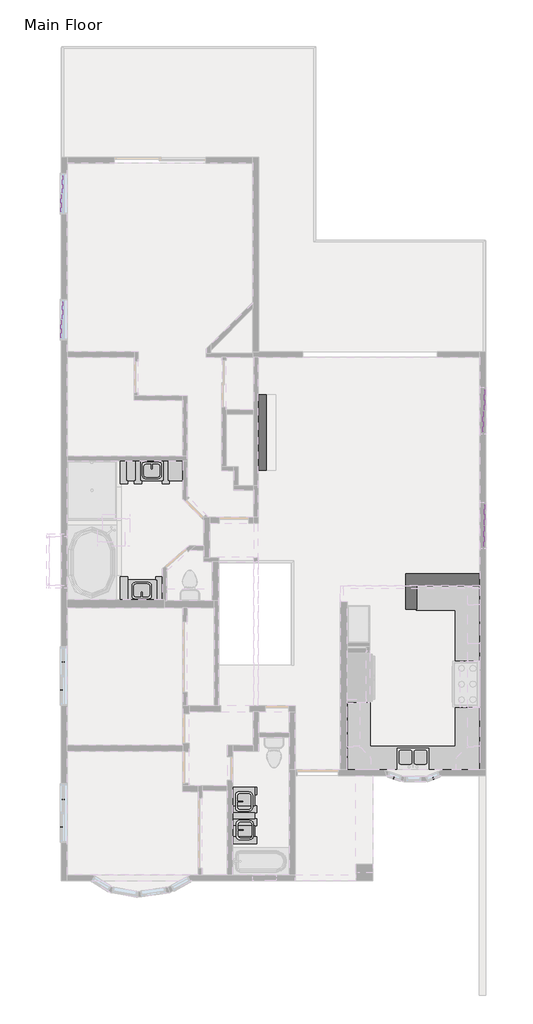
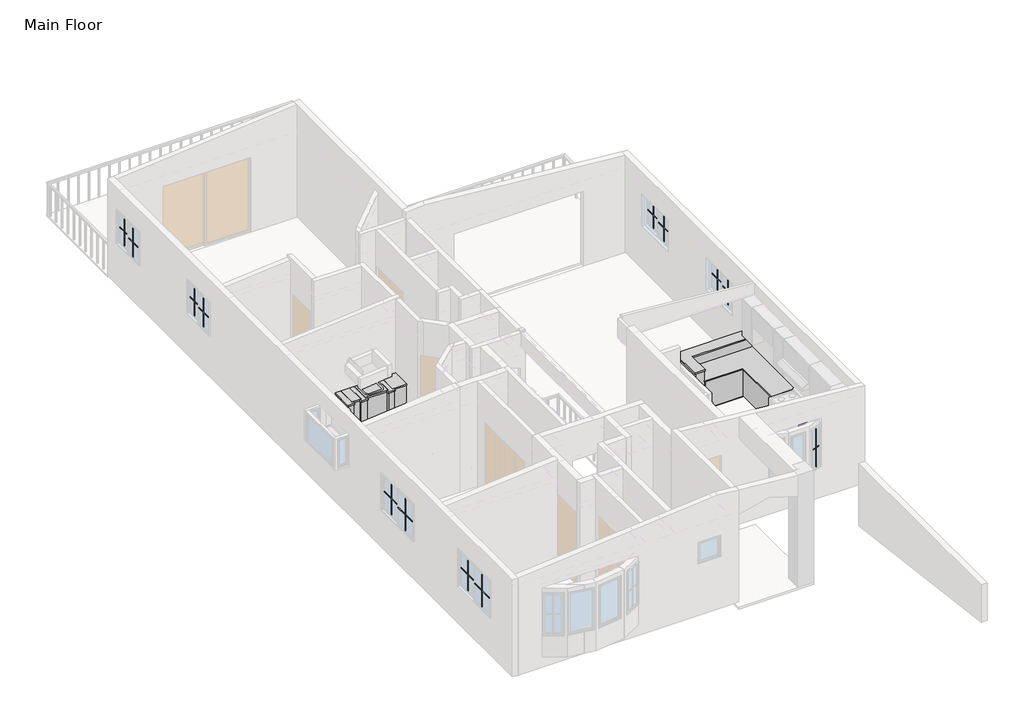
# One storey, part 5 of 5: 32 proxies.
"""IFC4 building model written with IfcOpenShell, lengths in millimetres."""

from ifc_helpers import new_model, si_unit, frame, origin, origin_with_axes, place, context, project, spatial, polyline, outline, extrude, faceted_brep, transform, mapped, element, save
from components import bar_81681fa0, countertop_u_shape_base_default_1_f55b23da, default_1_b07f35ee, fireplace_default_1_89c34899, muntin_pattern_2x2_muntin_pattern_2x2_0ac132d2, muntin_pattern_2x2_muntin_pattern_2x2_2203c52f, muntin_pattern_2x2_muntin_pattern_2x2_1c4d2e6b, muntin_pattern_2x2_muntin_pattern_2x2_7cdcbd1e

model = new_model("IFC4")

# Units and contexts
model_context = context("Model", 3, world=origin())
ifc_project = project(units=[si_unit("LENGTHUNIT", "METRE", prefix="MILLI")], contexts=[model_context])

# Site, building, storey
site = spatial("IfcSite", under=ifc_project)
building = spatial("IfcBuilding", under=site)
storey = spatial("IfcBuildingStorey", under=building, Name="Main Floor", Elevation=0.0)

# Proxies
placement = place(None, origin())
bar_shape = bar_81681fa0(model_context)
element("IfcBuildingElementProxy", 1, Name="Countertop- L  Shape base : BAR", ObjectType="Countertop- L  Shape base : BAR", at=placement, inside=storey, context=model_context, shape_type="MappedRepresentation", body=[
    mapped(bar_shape, transform((3161.0195083, -456.3938544, 0.0), x_axis=(0.0, -1.0, 0.0), y_axis=(1.0, 0.0, 0.0), z_axis=(0.0, 0.0, 1.0))),
])
element("IfcBuildingElementProxy", 2, Name="Countertop- Rectangle shape base : Default 1", ObjectType="Countertop- Rectangle shape base : Default 1", at=placement, inside=storey, context=model_context, shape_type="SolidModel", body=[
    extrude(outline(polyline([(-4229.9755931, -1256.5731663), (-4178.3755931, -1256.5731663), (-4178.3755931, -1631.6438544), (-4229.9755931, -1631.6438544), (-4229.9755931, -1256.5731663)])), origin_with_axes(), (0.0, 0.0, 1.0), 101.6),
    faceted_brep([(-4128.3755931, -1154.9731663, 101.6), (-4128.3755931, -1225.2438544, 101.6), (-4128.3755931, -1733.2438544, 101.6), (-4279.9755931, -1733.2438544, 101.6), (-4279.9755931, -1154.9731663, 101.6), (-4128.3755931, -1154.9731663, 876.3), (-4279.9755931, -1154.9731663, 876.3), (-4279.9755931, -1733.2438544, 876.3), (-4128.3755931, -1733.2438544, 876.3), (-4128.3755931, -1225.2438544, 876.3)], [[[0, 1, 2, 3, 4]], [[5, 6, 7, 8, 9]], [[6, 5, 0, 4]], [[7, 6, 4, 3]], [[8, 7, 3, 2]], [[5, 9, 8, 2, 1, 0]]]),
    faceted_brep([(-4299.0255931, -1752.2938544, 914.4), (-4109.3255931, -1752.2938544, 914.4), (-4109.3255931, -1206.1938544, 914.4), (-4109.3255931, -1135.9231663, 914.4), (-4299.0255931, -1135.9231663, 914.4), (-4299.0255931, -1752.2938544, 876.3), (-4299.0255931, -1135.9231663, 876.3), (-4109.3255931, -1135.9231663, 876.3), (-4109.3255931, -1206.1938544, 876.3), (-4109.3255931, -1752.2938544, 876.3)], [[[0, 1, 2, 3, 4]], [[5, 6, 7, 8, 9]], [[1, 0, 5, 9]], [[3, 2, 1, 9, 8, 7]], [[4, 3, 7, 6]], [[0, 4, 6, 5]]]),
])
element("IfcBuildingElementProxy", 3, Name="Countertop- Rectangle shape base : Default 1", ObjectType="Countertop- Rectangle shape base : Default 1", at=placement, inside=storey, context=model_context, shape_type="SolidModel", body=[
    extrude(outline(polyline([(-3309.2255931, -1256.5731663), (-3257.6255931, -1256.5731663), (-3257.6255931, -1631.6438544), (-3309.2255931, -1631.6438544), (-3309.2255931, -1256.5731663)])), origin_with_axes(), (0.0, 0.0, 1.0), 101.6),
    faceted_brep([(-3207.6255931, -1154.9731663, 101.6), (-3207.6255931, -1733.2438544, 101.6), (-3359.2255931, -1733.2438544, 101.6), (-3359.2255931, -1225.2438544, 101.6), (-3359.2255931, -1154.9731663, 101.6), (-3207.6255931, -1154.9731663, 876.3), (-3359.2255931, -1154.9731663, 876.3), (-3359.2255931, -1225.2438544, 876.3), (-3359.2255931, -1733.2438544, 876.3), (-3207.6255931, -1733.2438544, 876.3)], [[[0, 1, 2, 3, 4]], [[5, 6, 7, 8, 9]], [[6, 5, 0, 4]], [[8, 7, 6, 4, 3, 2]], [[9, 8, 2, 1]], [[5, 9, 1, 0]]]),
    extrude(outline(polyline([(-3378.2755931, -1135.9231663), (-3188.5755931, -1135.9231663), (-3188.5755931, -1752.2938544), (-3340.1755931, -1752.2938544), (-3340.1755931, -1206.1938544), (-3378.2755931, -1206.1938544), (-3378.2755931, -1135.9231663)])), frame((0.0, 0.0, 876.3), z_axis=(0.0, 0.0, 1.0), x_axis=(1.0, 0.0, 0.0)), (0.0, 0.0, 1.0), 38.1),
])
element("IfcBuildingElementProxy", 4, Name="Countertop- Rectangle shape base : Default 1", ObjectType="Countertop- Rectangle shape base : Default 1", at=placement, inside=storey, context=model_context, shape_type="SolidModel", body=[
    faceted_brep([(-3340.1755931, -1752.2938544, 914.4), (-3340.1755931, -1206.1938544, 914.4), (-3378.2755931, -1206.1938544, 914.4), (-4109.3255931, -1206.1938544, 914.4), (-4109.3255931, -1752.2938544, 914.4), (-3340.1755931, -1206.1938544, 876.3), (-3340.1755931, -1752.2938544, 876.3), (-4109.3255931, -1752.2938544, 876.3), (-4109.3255931, -1206.1938544, 876.3), (-3378.2755931, -1206.1938544, 876.3)], [[[0, 1, 2, 3, 4]], [[5, 6, 7, 8, 9]], [[6, 0, 4, 7]], [[1, 0, 6, 5]], [[1, 5, 9, 8, 3, 2]], [[4, 3, 8, 7]]]),
    extrude(outline(polyline([(-3460.8255931, -1326.8438544), (-3460.8255931, -1631.6438544), (-4026.7755931, -1631.6438544), (-4026.7755931, -1326.8438544), (-3460.8255931, -1326.8438544)])), origin_with_axes(), (0.0, 0.0, 1.0), 101.6),
    extrude(outline(polyline([(-3359.2255931, -1225.2438544), (-3359.2255931, -1733.2438544), (-4128.3755931, -1733.2438544), (-4128.3755931, -1225.2438544), (-3359.2255931, -1225.2438544)])), frame((0.0, 0.0, 101.6), z_axis=(0.0, 0.0, 1.0), x_axis=(1.0, 0.0, 0.0)), (0.0, 0.0, 1.0), 774.7),
])
element("IfcBuildingElementProxy", 5, Name="Countertop- Rectangle shape base : Default 1", ObjectType="Countertop- Rectangle shape base : Default 1", at=placement, inside=storey, context=model_context, shape_type="SolidModel", body=[
    extrude(outline(polyline([(-4299.0255931, 1298.6708016), (-4299.0255931, 1915.0414897), (-4109.3255931, 1915.0414897), (-4109.3255931, 1911.8664897), (-4147.4255931, 1911.8664897), (-4147.4255931, 1365.7664897), (-4109.3255931, 1365.7664897), (-4109.3255931, 1298.6708016), (-4299.0255931, 1298.6708016)])), frame((0.0, 0.0, 876.3), z_axis=(0.0, 0.0, 1.0), x_axis=(1.0, 0.0, 0.0)), (0.0, 0.0, 1.0), 38.1),
    extrude(outline(polyline([(-4229.9755931, 1794.3914897), (-4178.3755931, 1794.3914897), (-4178.3755931, 1419.3208016), (-4229.9755931, 1419.3208016), (-4229.9755931, 1794.3914897)])), origin_with_axes(), (0.0, 0.0, 1.0), 101.6),
    faceted_brep([(-4128.3755931, 1895.9914897, 101.6), (-4128.3755931, 1892.8164897, 101.6), (-4128.3755931, 1384.8164897, 101.6), (-4128.3755931, 1317.7208016, 101.6), (-4279.9755931, 1317.7208016, 101.6), (-4279.9755931, 1895.9914897, 101.6), (-4128.3755931, 1895.9914897, 876.3), (-4279.9755931, 1895.9914897, 876.3), (-4279.9755931, 1317.7208016, 876.3), (-4128.3755931, 1317.7208016, 876.3), (-4128.3755931, 1384.8164897, 876.3), (-4128.3755931, 1892.8164897, 876.3)], [[[0, 1, 2, 3, 4, 5]], [[6, 7, 8, 9, 10, 11]], [[7, 6, 0, 5]], [[8, 7, 5, 4]], [[9, 8, 4, 3]], [[6, 11, 10, 9, 3, 2, 1, 0]]]),
])
element("IfcBuildingElementProxy", 6, Name="Countertop- Rectangle shape base : Default 1", ObjectType="Countertop- Rectangle shape base : Default 1", at=placement, inside=storey, context=model_context, shape_type="SolidModel", body=[
    extrude(outline(polyline([(-3868.0255931, 1794.3914897), (-3816.4255931, 1794.3914897), (-3816.4255931, 1419.3208016), (-3868.0255931, 1419.3208016), (-3868.0255931, 1794.3914897)])), origin_with_axes(), (0.0, 0.0, 1.0), 101.6),
    faceted_brep([(-3766.4255931, 1895.9914897, 101.6), (-3766.4255931, 1892.8164897, 101.6), (-3766.4255931, 1384.8164897, 101.6), (-3766.4255931, 1317.7208016, 101.6), (-3918.0255931, 1317.7208016, 101.6), (-3918.0255931, 1384.8164897, 101.6), (-3918.0255931, 1892.8164897, 101.6), (-3918.0255931, 1895.9914897, 101.6), (-3766.4255931, 1895.9914897, 876.3), (-3918.0255931, 1895.9914897, 876.3), (-3918.0255931, 1892.8164897, 876.3), (-3918.0255931, 1384.8164897, 876.3), (-3918.0255931, 1317.7208016, 876.3), (-3766.4255931, 1317.7208016, 876.3), (-3766.4255931, 1384.8164897, 876.3), (-3766.4255931, 1892.8164897, 876.3)], [[[0, 1, 2, 3, 4, 5, 6, 7]], [[8, 9, 10, 11, 12, 13, 14, 15]], [[9, 8, 0, 7]], [[12, 11, 10, 9, 7, 6, 5, 4]], [[13, 12, 4, 3]], [[8, 15, 14, 13, 3, 2, 1, 0]]]),
    extrude(outline(polyline([(-3937.0755931, 1915.0414897), (-3747.3755931, 1915.0414897), (-3747.3755931, 1911.8664897), (-3785.4755931, 1911.8664897), (-3785.4755931, 1365.7664897), (-3747.3755931, 1365.7664897), (-3747.3755931, 1298.6708016), (-3937.0755931, 1298.6708016), (-3937.0755931, 1365.7664897), (-3898.9755931, 1365.7664897), (-3898.9755931, 1911.8664897), (-3937.0755931, 1911.8664897), (-3937.0755931, 1915.0414897)])), frame((0.0, 0.0, 876.3), z_axis=(0.0, 0.0, 1.0), x_axis=(1.0, 0.0, 0.0)), (0.0, 0.0, 1.0), 38.1),
])
element("IfcBuildingElementProxy", 7, Name="Countertop- Rectangle shape base : Default 1", ObjectType="Countertop- Rectangle shape base : Default 1", at=placement, inside=storey, context=model_context, shape_type="SolidModel", body=[
    extrude(outline(polyline([(-3143.2255931, 1788.0414897), (-3091.6255931, 1788.0414897), (-3091.6255931, 1412.9708016), (-3143.2255931, 1412.9708016), (-3143.2255931, 1788.0414897)])), origin_with_axes(), (0.0, 0.0, 1.0), 101.6),
    faceted_brep([(-3041.6255931, 1889.6414897, 101.6), (-3041.6255931, 1384.8164897, 101.6), (-3041.6255931, 1311.3708016, 101.6), (-3193.2255931, 1311.3708016, 101.6), (-3193.2255931, 1384.8164897, 101.6), (-3193.2255931, 1889.6414897, 101.6), (-3041.6255931, 1889.6414897, 876.3), (-3193.2255931, 1889.6414897, 876.3), (-3193.2255931, 1384.8164897, 876.3), (-3193.2255931, 1311.3708016, 876.3), (-3041.6255931, 1311.3708016, 876.3), (-3041.6255931, 1384.8164897, 876.3)], [[[0, 1, 2, 3, 4, 5]], [[6, 7, 8, 9, 10, 11]], [[7, 6, 0, 5]], [[9, 8, 7, 5, 4, 3]], [[10, 9, 3, 2]], [[6, 11, 10, 2, 1, 0]]]),
    extrude(outline(polyline([(-3022.5755931, 1292.3208016), (-3212.2755931, 1292.3208016), (-3212.2755931, 1365.7664897), (-3174.1755931, 1365.7664897), (-3174.1755931, 1908.6914897), (-3060.6755931, 1908.6914897), (-3060.6755931, 1365.7664897), (-3022.5755931, 1365.7664897), (-3022.5755931, 1292.3208016)])), frame((0.0, 0.0, 876.3), z_axis=(0.0, 0.0, 1.0), x_axis=(1.0, 0.0, 0.0)), (0.0, 0.0, 1.0), 38.1),
])
element("IfcBuildingElementProxy", 8, Name="Countertop- Rectangle shape base : Default 1", ObjectType="Countertop- Rectangle shape base : Default 1", at=placement, inside=storey, context=model_context, shape_type="SolidModel", body=[
    faceted_brep([(-4147.4255931, 1365.7664897, 914.4), (-4109.3255931, 1365.7664897, 914.4), (-3937.0755931, 1365.7664897, 914.4), (-3898.9755931, 1365.7664897, 914.4), (-3898.9755931, 1911.8664897, 914.4), (-3937.0755931, 1911.8664897, 914.4), (-4109.3255931, 1911.8664897, 914.4), (-4147.4255931, 1911.8664897, 914.4), (-4147.4255931, 1365.7664897, 876.3), (-4147.4255931, 1911.8664897, 876.3), (-4109.3255931, 1911.8664897, 876.3), (-3937.0755931, 1911.8664897, 876.3), (-3898.9755931, 1911.8664897, 876.3), (-3898.9755931, 1365.7664897, 876.3), (-3937.0755931, 1365.7664897, 876.3), (-4109.3255931, 1365.7664897, 876.3)], [[[0, 1, 2, 3, 4, 5, 6, 7]], [[8, 9, 10, 11, 12, 13, 14, 15]], [[3, 2, 1, 0, 8, 15, 14, 13]], [[4, 3, 13, 12]], [[7, 6, 5, 4, 12, 11, 10, 9]], [[0, 7, 9, 8]]]),
    extrude(outline(polyline([(-4019.6255931, 1791.2164897), (-4019.6255931, 1486.4164897), (-4026.7755931, 1486.4164897), (-4026.7755931, 1791.2164897), (-4019.6255931, 1791.2164897)])), origin_with_axes(), (0.0, 0.0, 1.0), 101.6),
    extrude(outline(polyline([(-3918.0255931, 1892.8164897), (-3918.0255931, 1384.8164897), (-4128.3755931, 1384.8164897), (-4128.3755931, 1892.8164897), (-3918.0255931, 1892.8164897)])), frame((0.0, 0.0, 101.6), z_axis=(0.0, 0.0, 1.0), x_axis=(1.0, 0.0, 0.0)), (0.0, 0.0, 1.0), 774.7),
])
element("IfcBuildingElementProxy", 9, Name="Countertop- Rectangle shape base : Default 1", ObjectType="Countertop- Rectangle shape base : Default 1", at=placement, inside=storey, context=model_context, shape_type="SolidModel", body=[
    faceted_brep([(-3785.4755931, 1365.7664897, 914.4), (-3747.3755931, 1365.7664897, 914.4), (-3212.2755931, 1365.7664897, 914.4), (-3174.1755931, 1365.7664897, 914.4), (-3174.1755931, 1908.6914897, 914.4), (-3174.1755931, 1911.8664897, 914.4), (-3747.3755931, 1911.8664897, 914.4), (-3785.4755931, 1911.8664897, 914.4), (-3785.4755931, 1365.7664897, 876.3), (-3785.4755931, 1911.8664897, 876.3), (-3747.3755931, 1911.8664897, 876.3), (-3174.1755931, 1911.8664897, 876.3), (-3174.1755931, 1908.6914897, 876.3), (-3174.1755931, 1365.7664897, 876.3), (-3212.2755931, 1365.7664897, 876.3), (-3747.3755931, 1365.7664897, 876.3)], [[[0, 1, 2, 3, 4, 5, 6, 7]], [[8, 9, 10, 11, 12, 13, 14, 15]], [[3, 2, 1, 0, 8, 15, 14, 13]], [[5, 4, 3, 13, 12, 11]], [[7, 6, 5, 11, 10, 9]], [[0, 7, 9, 8]]]),
    extrude(outline(polyline([(-3294.8255931, 1791.2164897), (-3294.8255931, 1486.4164897), (-3664.8255931, 1486.4164897), (-3664.8255931, 1791.2164897), (-3294.8255931, 1791.2164897)])), origin_with_axes(), (0.0, 0.0, 1.0), 101.6),
    faceted_brep([(-3193.2255931, 1892.8164897, 101.6), (-3193.2255931, 1889.6414897, 101.6), (-3193.2255931, 1384.8164897, 101.6), (-3766.4255931, 1384.8164897, 101.6), (-3766.4255931, 1892.8164897, 101.6), (-3193.2255931, 1892.8164897, 876.3), (-3766.4255931, 1892.8164897, 876.3), (-3766.4255931, 1384.8164897, 876.3), (-3193.2255931, 1384.8164897, 876.3), (-3193.2255931, 1889.6414897, 876.3)], [[[0, 1, 2, 3, 4]], [[5, 6, 7, 8, 9]], [[6, 5, 0, 4]], [[7, 6, 4, 3]], [[8, 7, 3, 2]], [[5, 9, 8, 2, 1, 0]]]),
])
element("IfcBuildingElementProxy", 10, Name="Countertop- Rectangle shape base : Default 1", ObjectType="Countertop- Rectangle shape base : Default 1", at=placement, inside=storey, context=model_context, shape_type="SolidModel", body=[
    extrude(outline(polyline([(-2769.4755931, 1791.2164897), (-2769.4755931, 1486.4164897), (-2940.0255931, 1486.4164897), (-2940.0255931, 1791.2164897), (-2769.4755931, 1791.2164897)])), origin_with_axes(), (0.0, 0.0, 1.0), 101.6),
    faceted_brep([(-2667.8755931, 1892.8164897, 101.6), (-2667.8755931, 1384.8164897, 101.6), (-3041.6255931, 1384.8164897, 101.6), (-3041.6255931, 1889.6414897, 101.6), (-3041.6255931, 1892.8164897, 101.6), (-2667.8755931, 1892.8164897, 876.3), (-3041.6255931, 1892.8164897, 876.3), (-3041.6255931, 1889.6414897, 876.3), (-3041.6255931, 1384.8164897, 876.3), (-2667.8755931, 1384.8164897, 876.3)], [[[0, 1, 2, 3, 4]], [[5, 6, 7, 8, 9]], [[6, 5, 0, 4]], [[8, 7, 6, 4, 3, 2]], [[9, 8, 2, 1]], [[5, 9, 1, 0]]]),
    faceted_brep([(-3060.6755931, 1365.7664897, 914.4), (-3022.5755931, 1365.7664897, 914.4), (-2648.8255931, 1365.7664897, 914.4), (-2648.8255931, 1911.8664897, 914.4), (-3060.6755931, 1911.8664897, 914.4), (-3060.6755931, 1908.6914897, 914.4), (-3060.6755931, 1365.7664897, 876.3), (-3060.6755931, 1908.6914897, 876.3), (-3060.6755931, 1911.8664897, 876.3), (-2648.8255931, 1911.8664897, 876.3), (-2648.8255931, 1365.7664897, 876.3), (-3022.5755931, 1365.7664897, 876.3)], [[[0, 1, 2, 3, 4, 5]], [[6, 7, 8, 9, 10, 11]], [[2, 1, 0, 6, 11, 10]], [[3, 2, 10, 9]], [[4, 3, 9, 8]], [[0, 5, 4, 8, 7, 6]]]),
])
element("IfcBuildingElementProxy", 11, Name="Countertop- Rectangle shape base : Default 1", ObjectType="Countertop- Rectangle shape base : Default 1", at=placement, inside=storey, context=model_context, shape_type="SolidModel", body=[
    faceted_brep([(-1391.6255931, -7899.8938544, 914.4), (-794.6255931, -7899.8938544, 914.4), (-794.6255931, -7619.6938544, 914.4), (-1391.6255931, -7619.6938544, 914.4), (-794.6255931, -7899.8938544, 876.3), (-794.6255931, -7619.6938544, 876.3), (-1391.6255931, -7899.8938544, 876.3), (-1391.6255931, -7619.6938544, 876.3)], [[[0, 1, 2, 3]], [[1, 4, 5, 2]], [[1, 0, 6, 4]], [[3, 2, 5, 7]], [[4, 6, 7, 5]], [[6, 0, 3, 7]]]),
    faceted_brep([(-1391.6255931, -6616.3938544, 876.3), (-794.6255931, -6616.3938544, 876.3), (-794.6255931, -6806.0938544, 876.3), (-794.6255931, -7093.4438544, 876.3), (-1391.6255931, -7093.4438544, 876.3), (-1391.6255931, -6616.3938544, 914.4), (-794.6255931, -6616.3938544, 914.4), (-1391.6255931, -7093.4438544, 914.4), (-794.6255931, -7093.4438544, 914.4), (-794.6255931, -6806.0938544, 914.4)], [[[0, 1, 2, 3, 4]], [[5, 6, 1, 0]], [[5, 0, 4, 7]], [[4, 3, 8, 7]], [[6, 5, 7, 8, 9]], [[1, 6, 9, 8, 3, 2]]]),
    faceted_brep([(-794.6255931, -7429.9938544, 914.4), (-1391.6255931, -7429.9938544, 914.4), (-1391.6255931, -7429.9938544, 876.3), (-794.6255931, -7429.9938544, 876.3), (-794.6255931, -7283.1438544, 914.4), (-1391.6255931, -7283.1438544, 914.4), (-794.6255931, -7283.1438544, 876.3), (-1391.6255931, -7283.1438544, 876.3)], [[[0, 1, 2, 3]], [[1, 0, 4, 5]], [[0, 3, 6, 4]], [[6, 7, 5, 4]], [[3, 2, 7, 6]], [[2, 1, 5, 7]]]),
    extrude(outline(polyline([(-1270.9755931, -6737.0438544), (-915.2755931, -6737.0438544), (-915.2755931, -7162.4938544), (-1270.9755931, -7162.4938544), (-1270.9755931, -6737.0438544)])), origin_with_axes(), (0.0, 0.0, 1.0), 101.6),
    extrude(outline(polyline([(-915.2755931, -7968.9438544), (-1270.9755931, -7968.9438544), (-1270.9755931, -7550.6438544), (-915.2755931, -7550.6438544), (-915.2755931, -7968.9438544)])), origin_with_axes(), (0.0, 0.0, 1.0), 101.6),
    extrude(outline(polyline([(-915.2755931, -7499.0438544), (-1270.9755931, -7499.0438544), (-1270.9755931, -7214.0938544), (-915.2755931, -7214.0938544), (-915.2755931, -7499.0438544)])), origin_with_axes(), (0.0, 0.0, 1.0), 101.6),
    faceted_brep([(-813.6755931, -7918.9438544, 101.6), (-1372.5755931, -7918.9438544, 101.6), (-1372.5755931, -7600.6438544, 101.6), (-813.6755931, -7600.6438544, 101.6), (-813.6755931, -7918.9438544, 876.3), (-813.6755931, -7600.6438544, 876.3), (-1372.5755931, -7918.9438544, 876.3), (-1372.5755931, -7600.6438544, 876.3)], [[[0, 1, 2, 3]], [[4, 0, 3, 5]], [[1, 0, 4, 6]], [[3, 2, 7, 5]], [[6, 4, 5, 7]], [[1, 6, 7, 2]]]),
    faceted_brep([(-813.6755931, -6635.4438544, 876.3), (-1372.5755931, -6635.4438544, 876.3), (-1372.5755931, -7112.4938544, 876.3), (-813.6755931, -7112.4938544, 876.3), (-813.6755931, -6787.0438544, 876.3), (-1372.5755931, -6635.4438544, 101.6), (-1372.5755931, -7112.4938544, 101.6), (-813.6755931, -6635.4438544, 101.6), (-813.6755931, -7112.4938544, 101.6), (-813.6755931, -6787.0438544, 101.6)], [[[0, 1, 2, 3, 4]], [[1, 5, 6, 2]], [[7, 5, 1, 0]], [[3, 2, 6, 8]], [[5, 7, 9, 8, 6]], [[7, 0, 4, 3, 8, 9]]]),
    faceted_brep([(-1372.5755931, -7449.0438544, 101.6), (-813.6755931, -7449.0438544, 101.6), (-813.6755931, -7449.0438544, 876.3), (-1372.5755931, -7449.0438544, 876.3), (-1372.5755931, -7264.0938544, 101.6), (-813.6755931, -7264.0938544, 101.6), (-813.6755931, -7264.0938544, 876.3), (-1372.5755931, -7264.0938544, 876.3)], [[[0, 1, 2, 3]], [[1, 0, 4, 5]], [[2, 1, 5, 6]], [[7, 6, 5, 4]], [[3, 2, 6, 7]], [[0, 3, 7, 4]]]),
])
element("IfcBuildingElementProxy", 12, Name="Countertop- Rectangle shape base : Default 1", ObjectType="Countertop- Rectangle shape base : Default 1", at=placement, inside=storey, context=model_context, shape_type="SolidModel", body=[
    faceted_brep([(-1270.8755931, -6737.0438544, 101.6), (-915.2755931, -6737.0438544, 101.6), (-864.4755931, -6737.0438544, 101.6), (-864.4755931, -6685.4438544, 101.6), (-1270.8755931, -6685.4438544, 101.6), (-1270.8755931, -6737.0438544, 0.0), (-1270.8755931, -6685.4438544, 0.0), (-864.4755931, -6685.4438544, 0.0), (-864.4755931, -6737.0438544, 0.0), (-915.2755931, -6737.0438544, 0.0)], [[[0, 1, 2, 3, 4]], [[5, 6, 7, 8, 9]], [[0, 4, 6, 5]], [[4, 3, 7, 6]], [[3, 2, 8, 7]], [[2, 1, 0, 5, 9, 8]]]),
    extrude(outline(polyline([(-762.8755931, -6635.4438544), (-762.8755931, -6787.0438544), (-813.6755931, -6787.0438544), (-813.6755931, -6635.4438544), (-762.8755931, -6635.4438544)])), frame((0.0, 0.0, 101.6), z_axis=(0.0, 0.0, 1.0), x_axis=(1.0, 0.0, 0.0)), (0.0, 0.0, 1.0), 774.7),
    extrude(outline(polyline([(-743.8255931, -6616.3938544), (-743.8255931, -6806.0938544), (-794.6255931, -6806.0938544), (-794.6255931, -6616.3938544), (-743.8255931, -6616.3938544)])), frame((0.0, 0.0, 876.3), z_axis=(0.0, 0.0, 1.0), x_axis=(1.0, 0.0, 0.0)), (0.0, 0.0, 1.0), 38.1),
])
element("IfcBuildingElementProxy", 13, Name="Countertop- Rectangle shape base : Default 1", ObjectType="Countertop- Rectangle shape base : Default 1", at=placement, inside=storey, context=model_context, shape_type="Brep", body=[
    faceted_brep([(-1270.8755931, -7214.0938544, 101.6), (-915.2755931, -7214.0938544, 101.6), (-864.4755931, -7214.0938544, 101.6), (-864.4755931, -7162.4938544, 101.6), (-915.2755931, -7162.4938544, 101.6), (-1270.8755931, -7162.4938544, 101.6), (-1270.8755931, -7214.0938544, 0.0), (-1270.8755931, -7162.4938544, 0.0), (-915.2755931, -7162.4938544, 0.0), (-864.4755931, -7162.4938544, 0.0), (-864.4755931, -7214.0938544, 0.0), (-915.2755931, -7214.0938544, 0.0)], [[[0, 1, 2, 3, 4, 5]], [[6, 7, 8, 9, 10, 11]], [[0, 5, 7, 6]], [[5, 4, 3, 9, 8, 7]], [[3, 2, 10, 9]], [[2, 1, 0, 6, 11, 10]]]),
    faceted_brep([(-1372.4755931, -7112.4938544, 101.6), (-813.6755931, -7112.4938544, 101.6), (-762.8755931, -7112.4938544, 101.6), (-762.8755931, -7264.0938544, 101.6), (-813.6755931, -7264.0938544, 101.6), (-1372.4755931, -7264.0938544, 101.6), (-1372.4755931, -7112.4938544, 876.3), (-1372.4755931, -7264.0938544, 876.3), (-813.6755931, -7264.0938544, 876.3), (-762.8755931, -7264.0938544, 876.3), (-762.8755931, -7112.4938544, 876.3), (-813.6755931, -7112.4938544, 876.3)], [[[0, 1, 2, 3, 4, 5]], [[6, 7, 8, 9, 10, 11]], [[7, 6, 0, 5]], [[9, 8, 7, 5, 4, 3]], [[10, 9, 3, 2]], [[6, 11, 10, 2, 1, 0]]]),
    faceted_brep([(-743.8255931, -7283.1438544, 914.4), (-743.8255931, -7093.4438544, 914.4), (-794.6255931, -7093.4438544, 914.4), (-1391.5255931, -7093.4438544, 914.4), (-1391.5255931, -7283.1438544, 914.4), (-794.6255931, -7283.1438544, 914.4), (-743.8255931, -7283.1438544, 876.3), (-794.6255931, -7283.1438544, 876.3), (-1391.5255931, -7283.1438544, 876.3), (-1391.5255931, -7093.4438544, 876.3), (-794.6255931, -7093.4438544, 876.3), (-743.8255931, -7093.4438544, 876.3)], [[[0, 1, 2, 3, 4, 5]], [[6, 7, 8, 9, 10, 11]], [[1, 0, 6, 11]], [[3, 2, 1, 11, 10, 9]], [[4, 3, 9, 8]], [[0, 5, 4, 8, 7, 6]]]),
])
element("IfcBuildingElementProxy", 14, Name="Countertop- Rectangle shape base : Default 1", ObjectType="Countertop- Rectangle shape base : Default 1", at=placement, inside=storey, context=model_context, shape_type="Brep", body=[
    faceted_brep([(-743.8255931, -7619.6938544, 914.4), (-743.8255931, -7429.9938544, 914.4), (-794.6255931, -7429.9938544, 914.4), (-1391.5255931, -7429.9938544, 914.4), (-1391.5255931, -7619.6938544, 914.4), (-794.6255931, -7619.6938544, 914.4), (-743.8255931, -7619.6938544, 876.3), (-794.6255931, -7619.6938544, 876.3), (-1391.5255931, -7619.6938544, 876.3), (-1391.5255931, -7429.9938544, 876.3), (-794.6255931, -7429.9938544, 876.3), (-743.8255931, -7429.9938544, 876.3)], [[[0, 1, 2, 3, 4, 5]], [[6, 7, 8, 9, 10, 11]], [[1, 0, 6, 11]], [[3, 2, 1, 11, 10, 9]], [[4, 3, 9, 8]], [[0, 5, 4, 8, 7, 6]]]),
    faceted_brep([(-1270.8755931, -7550.6438544, 101.6), (-915.2755931, -7550.6438544, 101.6), (-864.4755931, -7550.6438544, 101.6), (-864.4755931, -7499.0438544, 101.6), (-915.2755931, -7499.0438544, 101.6), (-1270.8755931, -7499.0438544, 101.6), (-1270.8755931, -7550.6438544, 0.0), (-1270.8755931, -7499.0438544, 0.0), (-915.2755931, -7499.0438544, 0.0), (-864.4755931, -7499.0438544, 0.0), (-864.4755931, -7550.6438544, 0.0), (-915.2755931, -7550.6438544, 0.0)], [[[0, 1, 2, 3, 4, 5]], [[6, 7, 8, 9, 10, 11]], [[0, 5, 7, 6]], [[5, 4, 3, 9, 8, 7]], [[3, 2, 10, 9]], [[2, 1, 0, 6, 11, 10]]]),
    faceted_brep([(-1372.4755931, -7449.0438544, 101.6), (-813.6755931, -7449.0438544, 101.6), (-762.8755931, -7449.0438544, 101.6), (-762.8755931, -7600.6438544, 101.6), (-813.6755931, -7600.6438544, 101.6), (-1372.4755931, -7600.6438544, 101.6), (-1372.4755931, -7449.0438544, 876.3), (-1372.4755931, -7600.6438544, 876.3), (-813.6755931, -7600.6438544, 876.3), (-762.8755931, -7600.6438544, 876.3), (-762.8755931, -7449.0438544, 876.3), (-813.6755931, -7449.0438544, 876.3)], [[[0, 1, 2, 3, 4, 5]], [[6, 7, 8, 9, 10, 11]], [[7, 6, 0, 5]], [[9, 8, 7, 5, 4, 3]], [[10, 9, 3, 2]], [[6, 11, 10, 2, 1, 0]]]),
])
element("IfcBuildingElementProxy", 15, Name="Countertop- Rectangle shape base : Default 1", ObjectType="Countertop- Rectangle shape base : Default 1", at=placement, inside=storey, context=model_context, shape_type="Brep", body=[
    faceted_brep([(-1270.8755931, -8020.5438544, 101.6), (-864.4755931, -8020.5438544, 101.6), (-864.4755931, -7968.9438544, 101.6), (-915.2755931, -7968.9438544, 101.6), (-1270.8755931, -7968.9438544, 101.6), (-1270.8755931, -8020.5438544, 0.0), (-1270.8755931, -7968.9438544, 0.0), (-915.2755931, -7968.9438544, 0.0), (-864.4755931, -7968.9438544, 0.0), (-864.4755931, -8020.5438544, 0.0)], [[[0, 1, 2, 3, 4]], [[5, 6, 7, 8, 9]], [[0, 4, 6, 5]], [[4, 3, 2, 8, 7, 6]], [[2, 1, 9, 8]], [[1, 0, 5, 9]]]),
    faceted_brep([(-1372.4755931, -7918.9438544, 101.6), (-813.6755931, -7918.9438544, 101.6), (-762.8755931, -7918.9438544, 101.6), (-762.8755931, -8070.5438544, 101.6), (-1372.4755931, -8070.5438544, 101.6), (-1372.4755931, -7918.9438544, 876.3), (-1372.4755931, -8070.5438544, 876.3), (-762.8755931, -8070.5438544, 876.3), (-762.8755931, -7918.9438544, 876.3), (-813.6755931, -7918.9438544, 876.3)], [[[0, 1, 2, 3, 4]], [[5, 6, 7, 8, 9]], [[6, 5, 0, 4]], [[7, 6, 4, 3]], [[8, 7, 3, 2]], [[5, 9, 8, 2, 1, 0]]]),
    faceted_brep([(-743.8255931, -8089.5938544, 914.4), (-743.8255931, -7899.8938544, 914.4), (-794.6255931, -7899.8938544, 914.4), (-1391.5255931, -7899.8938544, 914.4), (-1391.5255931, -8089.5938544, 914.4), (-743.8255931, -8089.5938544, 876.3), (-1391.5255931, -8089.5938544, 876.3), (-1391.5255931, -7899.8938544, 876.3), (-794.6255931, -7899.8938544, 876.3), (-743.8255931, -7899.8938544, 876.3)], [[[0, 1, 2, 3, 4]], [[5, 6, 7, 8, 9]], [[1, 0, 5, 9]], [[3, 2, 1, 9, 8, 7]], [[4, 3, 7, 6]], [[0, 4, 6, 5]]]),
])
countertop_u_shape_base_default_1_shape = countertop_u_shape_base_default_1_f55b23da(model_context)
element("IfcBuildingElementProxy", 16, Name="Countertop- U Shape base : Default 1", ObjectType="Countertop- U Shape base : Default 1", at=placement, inside=storey, context=model_context, shape_type="MappedRepresentation", body=[
    mapped(countertop_u_shape_base_default_1_shape, transform((2906.9244069, -6165.5438544, 0.0), x_axis=(1.0, 0.0, 0.0), y_axis=(0.0, 1.0, 0.0), z_axis=(0.0, 0.0, 1.0))),
])
default_1_shape = default_1_b07f35ee(model_context)
element("IfcBuildingElementProxy", 17, Name="Countertop- L  Shape base : Default 1", ObjectType="Countertop- L  Shape base : Default 1", at=placement, inside=storey, context=model_context, shape_type="MappedRepresentation", body=[
    mapped(default_1_shape, transform((4933.5744069, -1307.7938544, 0.0), x_axis=(-1.0, 0.0, 0.0), y_axis=(0.0, -1.0, 0.0), z_axis=(0.0, 0.0, 1.0))),
])
fireplace_default_1_shape = fireplace_default_1_89c34899(model_context)
element("IfcBuildingElementProxy", 18, Name="Fireplace : Default 1", ObjectType="Fireplace : Default 1", at=placement, inside=storey, context=model_context, shape_type="MappedRepresentation", body=[
    mapped(fireplace_default_1_shape, transform((-805.7255931, 2626.0311456, 0.0), x_axis=(0.0, 1.0, 0.0), y_axis=(-1.0, 0.0, 0.0), z_axis=(0.0, 0.0, 1.0))),
])
muntin_pattern_2x2_muntin_pattern_2x2_shape = muntin_pattern_2x2_muntin_pattern_2x2_0ac132d2(model_context)
element("IfcBuildingElementProxy", 19, Name="Muntin Pattern_2x2 : Muntin Pattern_2x2", ObjectType="Muntin Pattern_2x2 : Muntin Pattern_2x2", at=placement, inside=storey, context=model_context, shape_type="MappedRepresentation", body=[
    mapped(muntin_pattern_2x2_muntin_pattern_2x2_shape, transform((5164.8494069, 2909.3998956, 1301.75), x_axis=(0.0, -1.0, 0.0), y_axis=(1.0, 0.0, 0.0), z_axis=(0.0, 0.0, 1.0))),
])
element("IfcBuildingElementProxy", 20, Name="Muntin Pattern_2x2 : Muntin Pattern_2x2", ObjectType="Muntin Pattern_2x2 : Muntin Pattern_2x2", at=placement, inside=storey, context=model_context, shape_type="MappedRepresentation", body=[
    mapped(muntin_pattern_2x2_muntin_pattern_2x2_shape, transform((5209.2994069, 3477.7248956, 1301.75), x_axis=(0.0, -1.0, 0.0), y_axis=(1.0, 0.0, 0.0), z_axis=(0.0, 0.0, 1.0))),
])
element("IfcBuildingElementProxy", 21, Name="Muntin Pattern_2x2 : Muntin Pattern_2x2", ObjectType="Muntin Pattern_2x2 : Muntin Pattern_2x2", at=placement, inside=storey, context=model_context, shape_type="MappedRepresentation", body=[
    mapped(muntin_pattern_2x2_muntin_pattern_2x2_shape, transform((5164.8494069, -77.4813544, 1301.75), x_axis=(0.0, -1.0, 0.0), y_axis=(1.0, 0.0, 0.0), z_axis=(0.0, 0.0, 1.0))),
])
element("IfcBuildingElementProxy", 22, Name="Muntin Pattern_2x2 : Muntin Pattern_2x2", ObjectType="Muntin Pattern_2x2 : Muntin Pattern_2x2", at=placement, inside=storey, context=model_context, shape_type="MappedRepresentation", body=[
    mapped(muntin_pattern_2x2_muntin_pattern_2x2_shape, transform((5209.2994069, 490.8436456, 1301.75), x_axis=(0.0, -1.0, 0.0), y_axis=(1.0, 0.0, 0.0), z_axis=(0.0, 0.0, 1.0))),
])
muntin_pattern_2x2_muntin_pattern_2x2_2_shape = muntin_pattern_2x2_muntin_pattern_2x2_2203c52f(model_context)
element("IfcBuildingElementProxy", 23, Name="Muntin Pattern_2x2 : Muntin Pattern_2x2", ObjectType="Muntin Pattern_2x2 : Muntin Pattern_2x2", at=placement, inside=storey, context=model_context, shape_type="MappedRepresentation", body=[
    mapped(muntin_pattern_2x2_muntin_pattern_2x2_2_shape, transform((-5788.9005931, 9098.2686456, 1250.95), x_axis=(0.0, 1.0, 0.0), y_axis=(-1.0, 0.0, 0.0), z_axis=(0.0, 0.0, 1.0))),
])
element("IfcBuildingElementProxy", 24, Name="Muntin Pattern_2x2 : Muntin Pattern_2x2", ObjectType="Muntin Pattern_2x2 : Muntin Pattern_2x2", at=placement, inside=storey, context=model_context, shape_type="MappedRepresentation", body=[
    mapped(muntin_pattern_2x2_muntin_pattern_2x2_2_shape, transform((-5833.3505931, 8606.1436456, 1250.95), x_axis=(0.0, 1.0, 0.0), y_axis=(-1.0, 0.0, 0.0), z_axis=(0.0, 0.0, 1.0))),
])
element("IfcBuildingElementProxy", 25, Name="Muntin Pattern_2x2 : Muntin Pattern_2x2", ObjectType="Muntin Pattern_2x2 : Muntin Pattern_2x2", at=placement, inside=storey, context=model_context, shape_type="MappedRepresentation", body=[
    mapped(muntin_pattern_2x2_muntin_pattern_2x2_2_shape, transform((-5788.9005931, 5816.9061456, 1250.95), x_axis=(0.0, 1.0, 0.0), y_axis=(-1.0, 0.0, 0.0), z_axis=(0.0, 0.0, 1.0))),
])
element("IfcBuildingElementProxy", 26, Name="Muntin Pattern_2x2 : Muntin Pattern_2x2", ObjectType="Muntin Pattern_2x2 : Muntin Pattern_2x2", at=placement, inside=storey, context=model_context, shape_type="MappedRepresentation", body=[
    mapped(muntin_pattern_2x2_muntin_pattern_2x2_2_shape, transform((-5833.3505931, 5324.7811456, 1250.95), x_axis=(0.0, 1.0, 0.0), y_axis=(-1.0, 0.0, 0.0), z_axis=(0.0, 0.0, 1.0))),
])
muntin_pattern_2x2_muntin_pattern_2x2_3_shape = muntin_pattern_2x2_muntin_pattern_2x2_1c4d2e6b(model_context)
element("IfcBuildingElementProxy", 27, Name="Muntin Pattern_2x2 : Muntin Pattern_2x2", ObjectType="Muntin Pattern_2x2 : Muntin Pattern_2x2", at=placement, inside=storey, context=model_context, shape_type="MappedRepresentation", body=[
    mapped(muntin_pattern_2x2_muntin_pattern_2x2_3_shape, transform((2828.2092769, -6375.1022149, 984.25), x_axis=(-0.9477937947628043, 0.31888387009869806, 0.0), y_axis=(-0.31888387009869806, -0.9477937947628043, 0.0), z_axis=(0.0, 0.0, 1.0))),
])
element("IfcBuildingElementProxy", 28, Name="Muntin Pattern_2x2 : Muntin Pattern_2x2", ObjectType="Muntin Pattern_2x2 : Muntin Pattern_2x2", at=placement, inside=storey, context=model_context, shape_type="MappedRepresentation", body=[
    mapped(muntin_pattern_2x2_muntin_pattern_2x2_3_shape, transform((3855.1871805, -6382.8715278, 984.25), x_axis=(-0.9335804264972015, -0.35836794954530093, 0.0), y_axis=(0.35836794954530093, -0.9335804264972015, 0.0), z_axis=(0.0, 0.0, 1.0))),
])
muntin_pattern_2x2_muntin_pattern_2x2_4_shape = muntin_pattern_2x2_muntin_pattern_2x2_7cdcbd1e(model_context)
element("IfcBuildingElementProxy", 29, Name="Muntin Pattern_2x2 : Muntin Pattern_2x2", ObjectType="Muntin Pattern_2x2 : Muntin Pattern_2x2", at=placement, inside=storey, context=model_context, shape_type="MappedRepresentation", body=[
    mapped(muntin_pattern_2x2_muntin_pattern_2x2_4_shape, transform((-5788.9005931, -3357.2563544, 1149.35), x_axis=(0.0, 1.0, 0.0), y_axis=(-1.0, 0.0, 0.0), z_axis=(0.0, 0.0, 1.0))),
])
element("IfcBuildingElementProxy", 30, Name="Muntin Pattern_2x2 : Muntin Pattern_2x2", ObjectType="Muntin Pattern_2x2 : Muntin Pattern_2x2", at=placement, inside=storey, context=model_context, shape_type="MappedRepresentation", body=[
    mapped(muntin_pattern_2x2_muntin_pattern_2x2_4_shape, transform((-5833.3505931, -4077.9813544, 1149.35), x_axis=(0.0, 1.0, 0.0), y_axis=(-1.0, 0.0, 0.0), z_axis=(0.0, 0.0, 1.0))),
])
element("IfcBuildingElementProxy", 31, Name="Muntin Pattern_2x2 : Muntin Pattern_2x2", ObjectType="Muntin Pattern_2x2 : Muntin Pattern_2x2", at=placement, inside=storey, context=model_context, shape_type="MappedRepresentation", body=[
    mapped(muntin_pattern_2x2_muntin_pattern_2x2_4_shape, transform((-5788.9005931, -6929.1313544, 1149.35), x_axis=(0.0, 1.0, 0.0), y_axis=(-1.0, 0.0, 0.0), z_axis=(0.0, 0.0, 1.0))),
])
element("IfcBuildingElementProxy", 32, Name="Muntin Pattern_2x2 : Muntin Pattern_2x2", ObjectType="Muntin Pattern_2x2 : Muntin Pattern_2x2", at=placement, inside=storey, context=model_context, shape_type="MappedRepresentation", body=[
    mapped(muntin_pattern_2x2_muntin_pattern_2x2_4_shape, transform((-5833.3505931, -7649.8563544, 1149.35), x_axis=(0.0, 1.0, 0.0), y_axis=(-1.0, 0.0, 0.0), z_axis=(0.0, 0.0, 1.0))),
])

save(model, "model.ifc")
